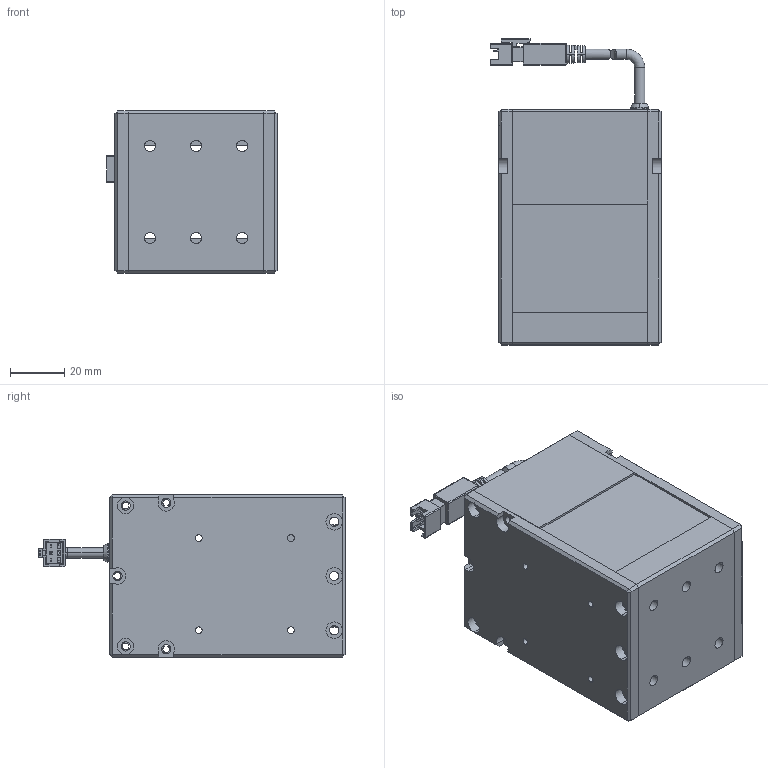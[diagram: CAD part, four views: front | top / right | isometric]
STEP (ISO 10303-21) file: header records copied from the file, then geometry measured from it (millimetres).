
FILE_DESCRIPTION (( 'STEP AP203' ), '1' );
FILE_NAME ('PPX-CO60N-W.STEP', '2025-06-17T06:05:47', ( '' ), ( '' ), 'SwSTEP 2.0', 'SolidWorks 2021', '' );
FILE_SCHEMA (( 'CONFIG_CONTROL_DESIGN' ));
Length unit declared in the file: millimetre
Products named in the file (1): PPX-CO60N-W
Bounding box: 63 x 113 x 60 mm (x, y, z)
Surface area: 44835 mm2 (no closed solid volume)
Topology: 0 solids, 9 shells, 427 faces, 1496 edges, 1053 vertices
Faces by surface type: plane 264, cylinder 139, torus 10, cone 8, sphere 4, bspline 2
Entity records: 16518 total; most frequent: CARTESIAN_POINT 3448, DIRECTION 2730, ORIENTED_EDGE 2514, EDGE_CURVE 1492, VERTEX_POINT 1053, VECTOR 1008, LINE 1008, AXIS2_PLACEMENT_3D 861
